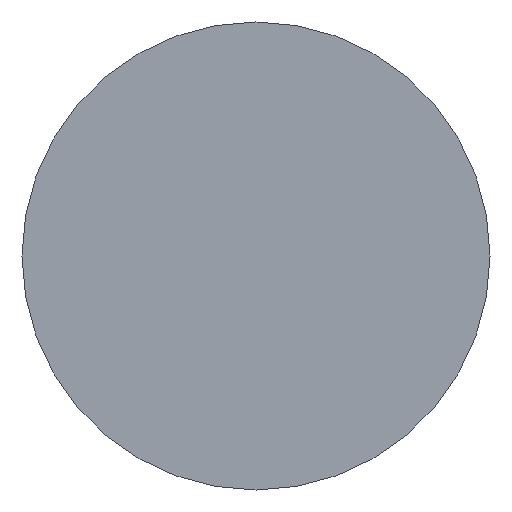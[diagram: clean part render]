
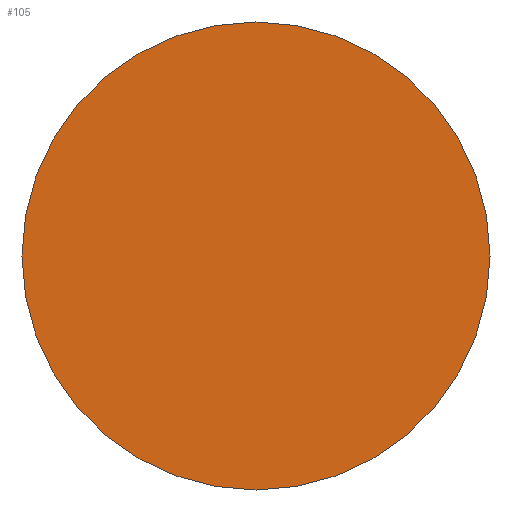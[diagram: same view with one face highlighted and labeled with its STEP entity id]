
A CAD part, front view. The second image highlights one B-rep face of the part: STEP entity #105.
In plain terms, the highlighted planar face has unit normal (0, -1, 0).
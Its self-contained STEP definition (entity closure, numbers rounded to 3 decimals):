
#22 = VERTEX_POINT('',#23);
#23 = CARTESIAN_POINT('',(60.5,-30.3,-195.));
#32 = CYLINDRICAL_SURFACE('',#33,12.5);
#33 = AXIS2_PLACEMENT_3D('',#34,#35,#36);
#34 = CARTESIAN_POINT('',(48.,-30.3,-195.));
#35 = DIRECTION('',(0.,-1.,-0.));
#36 = DIRECTION('',(1.,0.,0.));
#79 = EDGE_CURVE('',#22,#22,#80,.T.);
#80 = SURFACE_CURVE('',#81,(#86,#93),.PCURVE_S1.);
#81 = CIRCLE('',#82,12.5);
#82 = AXIS2_PLACEMENT_3D('',#83,#84,#85);
#83 = CARTESIAN_POINT('',(48.,-30.3,-195.));
#84 = DIRECTION('',(-0.,1.,0.));
#85 = DIRECTION('',(1.,0.,0.));
#86 = PCURVE('',#32,#87);
#87 = DEFINITIONAL_REPRESENTATION('',(#88),#92);
#88 = LINE('',#89,#90);
#89 = CARTESIAN_POINT('',(-0.,0.));
#90 = VECTOR('',#91,1.);
#91 = DIRECTION('',(-1.,0.));
#92 = ( GEOMETRIC_REPRESENTATION_CONTEXT(2) 
PARAMETRIC_REPRESENTATION_CONTEXT() REPRESENTATION_CONTEXT('2D SPACE',''
  ) );
#93 = PCURVE('',#94,#99);
#94 = PLANE('',#95);
#95 = AXIS2_PLACEMENT_3D('',#96,#97,#98);
#96 = CARTESIAN_POINT('',(48.,-30.3,-195.));
#97 = DIRECTION('',(0.,1.,0.));
#98 = DIRECTION('',(0.,-0.,1.));
#99 = DEFINITIONAL_REPRESENTATION('',(#100),#104);
#100 = CIRCLE('',#101,12.5);
#101 = AXIS2_PLACEMENT_2D('',#102,#103);
#102 = CARTESIAN_POINT('',(0.,0.));
#103 = DIRECTION('',(0.,1.));
#104 = ( GEOMETRIC_REPRESENTATION_CONTEXT(2) 
PARAMETRIC_REPRESENTATION_CONTEXT() REPRESENTATION_CONTEXT('2D SPACE',''
  ) );
#105 = ADVANCED_FACE('',(#106),#94,.F.);
#106 = FACE_BOUND('',#107,.F.);
#107 = EDGE_LOOP('',(#108));
#108 = ORIENTED_EDGE('',*,*,#79,.T.);
